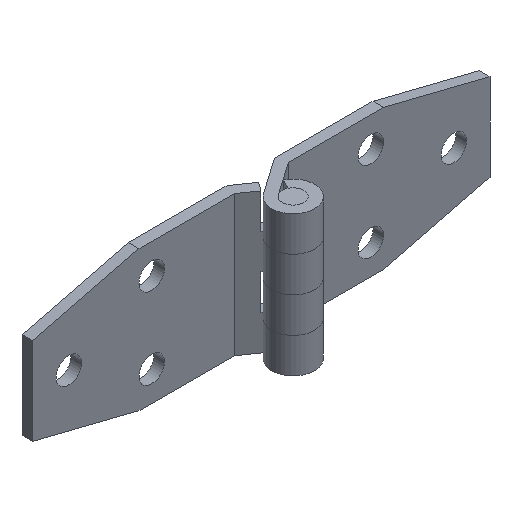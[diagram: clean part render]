
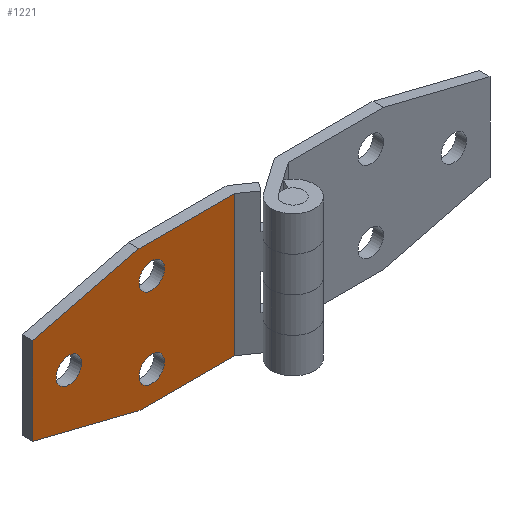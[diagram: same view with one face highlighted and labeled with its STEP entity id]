
A CAD part, isometric view. The second image highlights one B-rep face of the part: STEP entity #1221.
In plain terms, the highlighted planar face has unit normal (0, -1, 0).
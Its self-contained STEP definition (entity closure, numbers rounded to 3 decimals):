
#143=CARTESIAN_POINT('',(3.25,10.,-19.0));
#144=VERTEX_POINT('',#143);
#160=CARTESIAN_POINT('',(-8.75,10.,-19.0));
#161=VERTEX_POINT('',#160);
#168=CARTESIAN_POINT('',(-2.75,10.,-19.0));
#169=DIRECTION('',(0.0,1.0,0.0));
#170=DIRECTION('',(1.0,0.0,0.0));
#171=AXIS2_PLACEMENT_3D('',#168,#169,#170);
#172=CIRCLE('',#171,6.0);
#173=EDGE_CURVE('',#144,#161,#172,.T.);
#185=CARTESIAN_POINT('',(3.25,10.,19.0));
#186=VERTEX_POINT('',#185);
#202=CARTESIAN_POINT('',(-8.75,10.,19.0));
#203=VERTEX_POINT('',#202);
#210=CARTESIAN_POINT('',(-2.75,10.,19.0));
#211=DIRECTION('',(0.0,1.0,0.0));
#212=DIRECTION('',(1.0,0.0,0.0));
#213=AXIS2_PLACEMENT_3D('',#210,#211,#212);
#214=CIRCLE('',#213,6.0);
#215=EDGE_CURVE('',#186,#203,#214,.T.);
#227=CARTESIAN_POINT('',(-35.75,10.,0.0));
#228=VERTEX_POINT('',#227);
#244=CARTESIAN_POINT('',(-47.75,10.,0.));
#245=VERTEX_POINT('',#244);
#252=CARTESIAN_POINT('',(-41.75,10.,0.0));
#253=DIRECTION('',(0.0,1.0,0.0));
#254=DIRECTION('',(1.0,0.0,0.0));
#255=AXIS2_PLACEMENT_3D('',#252,#253,#254);
#256=CIRCLE('',#255,6.0);
#257=EDGE_CURVE('',#228,#245,#256,.T.);
#718=CARTESIAN_POINT('',(36.045,10.,33.0));
#719=VERTEX_POINT('',#718);
#726=CARTESIAN_POINT('',(36.045,10.,-33.0));
#727=VERTEX_POINT('',#726);
#728=CARTESIAN_POINT('',(36.045,10.,-33.0));
#729=DIRECTION('',(0.0,0.0,1.0));
#730=VECTOR('',#729,66.0);
#731=LINE('',#728,#730);
#732=EDGE_CURVE('',#727,#719,#731,.T.);
#789=CARTESIAN_POINT('',(-8.75,10.,33.0));
#790=VERTEX_POINT('',#789);
#797=CARTESIAN_POINT('',(36.045,10.,33.0));
#798=DIRECTION('',(-1.0,0.0,0.0));
#799=VECTOR('',#798,44.795);
#800=LINE('',#797,#799);
#801=EDGE_CURVE('',#719,#790,#800,.T.);
#1001=CARTESIAN_POINT('',(-41.75,10.,0.0));
#1002=DIRECTION('',(0.0,1.0,0.0));
#1003=DIRECTION('',(1.0,0.0,0.0));
#1004=AXIS2_PLACEMENT_3D('',#1001,#1002,#1003);
#1005=CIRCLE('',#1004,6.0);
#1006=EDGE_CURVE('',#245,#228,#1005,.T.);
#1025=CARTESIAN_POINT('',(-2.75,10.,19.0));
#1026=DIRECTION('',(0.0,1.0,0.0));
#1027=DIRECTION('',(1.0,0.0,0.0));
#1028=AXIS2_PLACEMENT_3D('',#1025,#1026,#1027);
#1029=CIRCLE('',#1028,6.0);
#1030=EDGE_CURVE('',#203,#186,#1029,.T.);
#1049=CARTESIAN_POINT('',(-2.75,10.,-19.0));
#1050=DIRECTION('',(0.0,1.0,0.0));
#1051=DIRECTION('',(1.0,0.0,0.0));
#1052=AXIS2_PLACEMENT_3D('',#1049,#1050,#1051);
#1053=CIRCLE('',#1052,6.0);
#1054=EDGE_CURVE('',#161,#144,#1053,.T.);
#1072=CARTESIAN_POINT('',(-58.75,10.,20.5));
#1073=VERTEX_POINT('',#1072);
#1074=CARTESIAN_POINT('',(-58.75,10.,20.5));
#1075=DIRECTION('',(0.97,0.0,0.243));
#1076=VECTOR('',#1075,51.539);
#1077=LINE('',#1074,#1076);
#1078=EDGE_CURVE('',#1073,#790,#1077,.T.);
#1111=CARTESIAN_POINT('',(-58.75,10.,-20.5));
#1112=VERTEX_POINT('',#1111);
#1119=CARTESIAN_POINT('',(-58.75,10.,20.5));
#1120=DIRECTION('',(0.0,0.0,-1.0));
#1121=VECTOR('',#1120,41.0);
#1122=LINE('',#1119,#1121);
#1123=EDGE_CURVE('',#1073,#1112,#1122,.T.);
#1142=CARTESIAN_POINT('',(-8.75,10.,-33.0));
#1143=VERTEX_POINT('',#1142);
#1150=CARTESIAN_POINT('',(-58.75,10.,-20.5));
#1151=DIRECTION('',(0.97,0.0,-0.243));
#1152=VECTOR('',#1151,51.539);
#1153=LINE('',#1150,#1152);
#1154=EDGE_CURVE('',#1112,#1143,#1153,.T.);
#1191=CARTESIAN_POINT('',(36.045,10.,-33.0));
#1192=DIRECTION('',(0.0,-1.0,0.0));
#1193=DIRECTION('',(0.0,0.0,-1.0));
#1194=AXIS2_PLACEMENT_3D('',#1191,#1192,#1193);
#1195=PLANE('',#1194);
#1196=ORIENTED_EDGE('',*,*,#801,.T.);
#1197=ORIENTED_EDGE('',*,*,#1078,.F.);
#1198=ORIENTED_EDGE('',*,*,#1123,.T.);
#1199=ORIENTED_EDGE('',*,*,#1154,.T.);
#1200=CARTESIAN_POINT('',(-8.75,10.,-33.0));
#1201=DIRECTION('',(1.0,0.0,0.0));
#1202=VECTOR('',#1201,44.795);
#1203=LINE('',#1200,#1202);
#1204=EDGE_CURVE('',#1143,#727,#1203,.T.);
#1205=ORIENTED_EDGE('',*,*,#1204,.T.);
#1206=ORIENTED_EDGE('',*,*,#732,.T.);
#1207=EDGE_LOOP('',(#1196,#1197,#1198,#1199,#1205,#1206));
#1208=FACE_OUTER_BOUND('',#1207,.T.);
#1209=ORIENTED_EDGE('',*,*,#257,.T.);
#1210=ORIENTED_EDGE('',*,*,#1006,.T.);
#1211=EDGE_LOOP('',(#1209,#1210));
#1212=FACE_BOUND('',#1211,.T.);
#1213=ORIENTED_EDGE('',*,*,#215,.T.);
#1214=ORIENTED_EDGE('',*,*,#1030,.T.);
#1215=EDGE_LOOP('',(#1213,#1214));
#1216=FACE_BOUND('',#1215,.T.);
#1217=ORIENTED_EDGE('',*,*,#173,.T.);
#1218=ORIENTED_EDGE('',*,*,#1054,.T.);
#1219=EDGE_LOOP('',(#1217,#1218));
#1220=FACE_BOUND('',#1219,.T.);
#1221=ADVANCED_FACE('',(#1208,#1212,#1216,#1220),#1195,.T.);
